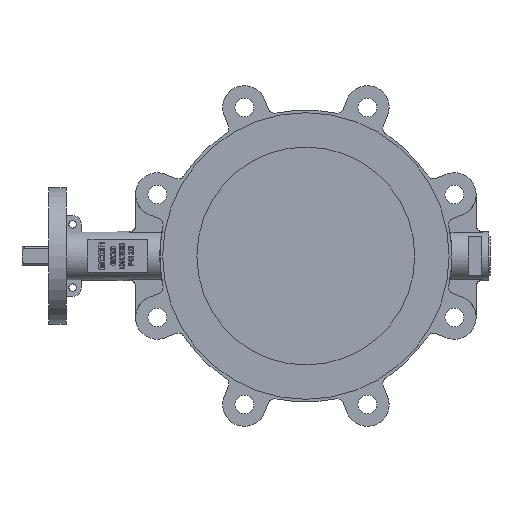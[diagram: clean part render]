
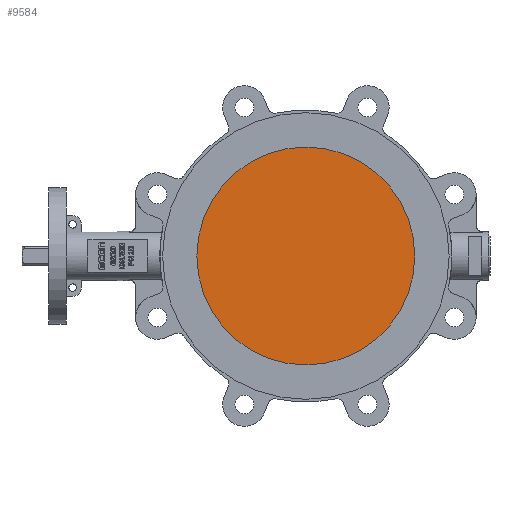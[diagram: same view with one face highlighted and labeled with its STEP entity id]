
A CAD part, left-side view. The second image highlights one B-rep face of the part: STEP entity #9584.
In plain terms, the highlighted planar face has unit normal (-1, 0, 0).
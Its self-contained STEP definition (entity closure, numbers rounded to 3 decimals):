
#2185=PLANE('',#10198);
#2669=FACE_OUTER_BOUND('',#3213,.T.);
#3213=EDGE_LOOP('',(#8513));
#3486=CIRCLE('',#10197,100.);
#4627=VERTEX_POINT('',#17185);
#5937=EDGE_CURVE('',#4627,#4627,#3486,.T.);
#8513=ORIENTED_EDGE('',*,*,#5937,.F.);
#9584=ADVANCED_FACE('',(#2669),#2185,.F.);
#10197=AXIS2_PLACEMENT_3D('',#17187,#12155,#12156);
#10198=AXIS2_PLACEMENT_3D('',#17188,#12157,#12158);
#12155=DIRECTION('center_axis',(1.,0.,0.));
#12156=DIRECTION('ref_axis',(0.,0.,-1.));
#12157=DIRECTION('center_axis',(1.,0.,0.));
#12158=DIRECTION('ref_axis',(0.,0.,-1.));
#17185=CARTESIAN_POINT('',(-109.196,43.393,100.));
#17187=CARTESIAN_POINT('Origin',(-109.196,43.393,0.));
#17188=CARTESIAN_POINT('Origin',(-109.196,43.393,0.));
